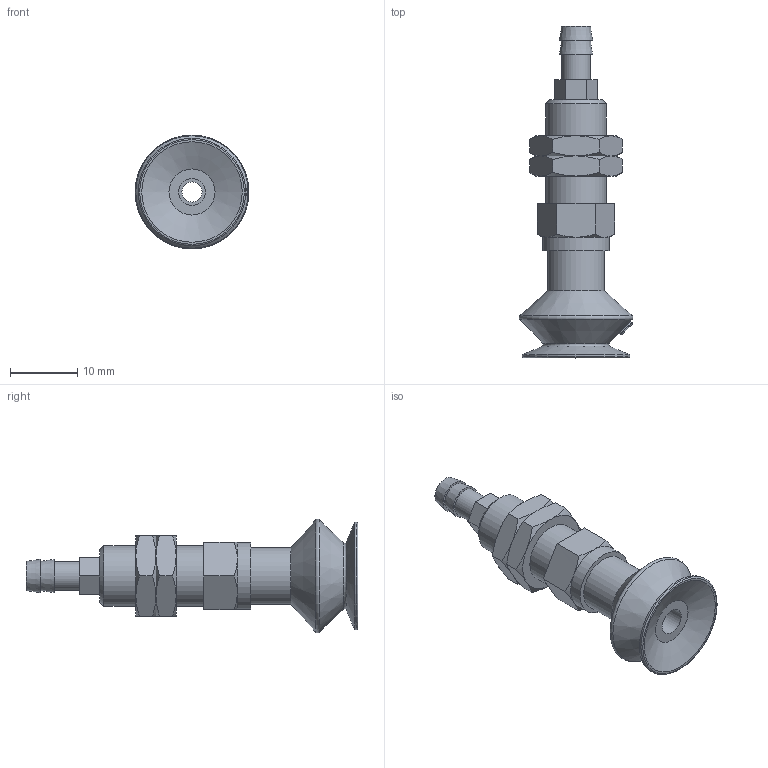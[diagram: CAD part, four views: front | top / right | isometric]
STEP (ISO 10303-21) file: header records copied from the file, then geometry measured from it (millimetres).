
FILE_DESCRIPTION(('STEP AP203'),'1');
FILE_NAME('.stp','2025-04-01T05:41:29',(' '),(' '),'Spatial InterOp 3D',' ',' ');
FILE_SCHEMA(('CONFIG_CONTROL_DESIGN'));
Length unit declared in the file: millimetre
Products named in the file (6): BBPBTK-15A-※; BBPBTK-15A; Nut-10A-; BPBG-15A-※; __27; BPBG-15A
Assembly tree (6 placements, depth 3):
  BBPBTK-15A-※
    BBPBTK-15A
    Nut-10A-  x2
    BPBG-15A-※
      __27
      BPBG-15A
Bounding box: 17 x 49.5 x 17 mm (x, y, z)
Volume: 3321.3 mm3; surface area: 3392.6 mm2
Topology: 5 solids, 5 shells, 124 faces, 265 edges, 162 vertices
Faces by surface type: cone 47, plane 43, cylinder 15, torus 11, bspline 8
Full cylindrical faces by diameter (mm): 3 x2, 4 x3, 4.134 x1, 4.3 x1, 6 x2, 7.917 x2, 8.5 x1, 9 x1, 10 x1, 16 x1
Entity records: 4131 total; most frequent: CARTESIAN_POINT 1927, DIRECTION 387, ORIENTED_EDGE 334, AXIS2_PLACEMENT_3D 172, EDGE_CURVE 167, EDGE_LOOP 155, FACE_OUTER_BOUND 126, VERTEX_POINT 122
